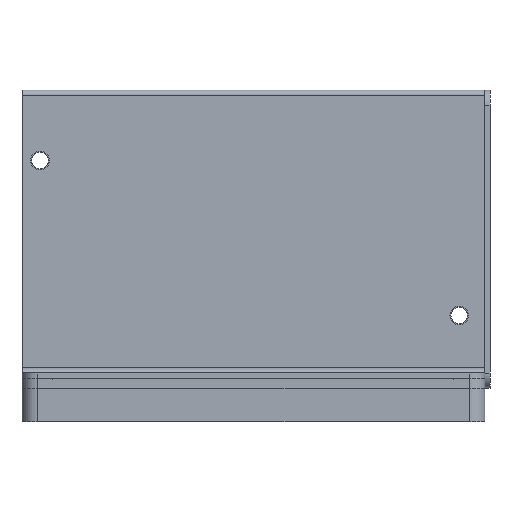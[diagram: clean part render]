
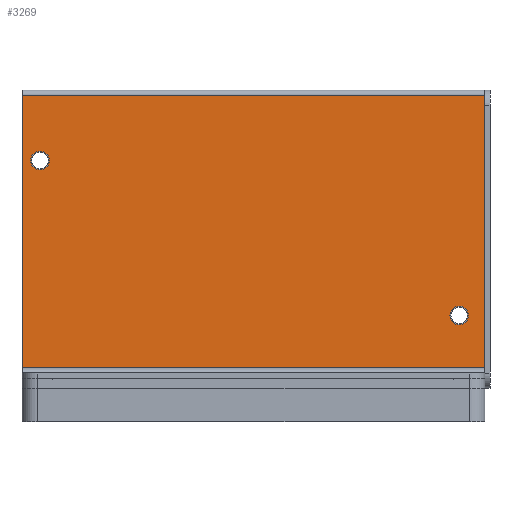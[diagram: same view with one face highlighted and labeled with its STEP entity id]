
A CAD part, left-side view. The second image highlights one B-rep face of the part: STEP entity #3269.
In plain terms, the highlighted planar face has unit normal (-1, 0, 0).
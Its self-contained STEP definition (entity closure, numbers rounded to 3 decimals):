
#180 = LINE ( 'NONE', #1345, #182 ) ;
#182 = VECTOR ( 'NONE', #1339, 1000. ) ;
#183 = CIRCLE ( 'NONE', #5026, 1.8 ) ;
#197 = VECTOR ( 'NONE', #1365, 1000. ) ;
#239 = LINE ( 'NONE', #1376, #197 ) ;
#259 = VECTOR ( 'NONE', #1450, 1000. ) ;
#263 = VECTOR ( 'NONE', #1451, 1000. ) ;
#265 = LINE ( 'NONE', #1471, #263 ) ;
#268 = CIRCLE ( 'NONE', #4982, 1.8 ) ;
#273 = LINE ( 'NONE', #1448, #259 ) ;
#332 = CIRCLE ( 'NONE', #4844, 1.8 ) ;
#396 = CIRCLE ( 'NONE', #4879, 1.8 ) ;
#1321 = DIRECTION ( 'NONE',  ( 0., 0., 1. ) ) ;
#1339 = DIRECTION ( 'NONE',  ( 0., 0., -1. ) ) ;
#1340 = CARTESIAN_POINT ( 'NONE',  ( -27., 5., 11.2 ) ) ;
#1345 = CARTESIAN_POINT ( 'NONE',  ( -27., 0., 0. ) ) ;
#1346 = DIRECTION ( 'NONE',  ( -1., 0., 0. ) ) ;
#1365 = DIRECTION ( 'NONE',  ( 0., -1., 0. ) ) ;
#1376 = CARTESIAN_POINT ( 'NONE',  ( -27., 0., 54. ) ) ;
#1448 = CARTESIAN_POINT ( 'NONE',  ( -27., 0., 1. ) ) ;
#1450 = DIRECTION ( 'NONE',  ( 0., 1., 0. ) ) ;
#1451 = DIRECTION ( 'NONE',  ( 0., 0., 1. ) ) ;
#1452 = CARTESIAN_POINT ( 'NONE',  ( -27., 86.5, 41.3 ) ) ;
#1461 = DIRECTION ( 'NONE',  ( 0., 0., 1. ) ) ;
#1465 = DIRECTION ( 'NONE',  ( -1., 0., 0. ) ) ;
#1471 = CARTESIAN_POINT ( 'NONE',  ( -27., 90., 0. ) ) ;
#1774 = CARTESIAN_POINT ( 'NONE',  ( -27., 86.5, 43.1 ) ) ;
#1819 = CARTESIAN_POINT ( 'NONE',  ( -27., 5., 9.4 ) ) ;
#1820 = CARTESIAN_POINT ( 'NONE',  ( -27., 86.5, 39.5 ) ) ;
#1896 = CARTESIAN_POINT ( 'NONE',  ( -27., 5., 13. ) ) ;
#2493 = VERTEX_POINT ( 'NONE', #1774 ) ;
#2529 = VERTEX_POINT ( 'NONE', #1819 ) ;
#2532 = VERTEX_POINT ( 'NONE', #1820 ) ;
#2572 = VERTEX_POINT ( 'NONE', #1896 ) ;
#2866 = ORIENTED_EDGE ( 'NONE', *, *, #7588, .F. ) ;
#2872 = ORIENTED_EDGE ( 'NONE', *, *, #7542, .F. ) ;
#2891 = ORIENTED_EDGE ( 'NONE', *, *, #7574, .F. ) ;
#2898 = ORIENTED_EDGE ( 'NONE', *, *, #7212, .F. ) ;
#2937 = ORIENTED_EDGE ( 'NONE', *, *, #7534, .F. ) ;
#2940 = ORIENTED_EDGE ( 'NONE', *, *, #7533, .F. ) ;
#2953 = ORIENTED_EDGE ( 'NONE', *, *, #7586, .F. ) ;
#2954 = ORIENTED_EDGE ( 'NONE', *, *, #7146, .F. ) ;
#3269 = ADVANCED_FACE ( 'NONE', ( #5765, #5751, #5767 ), #6155, .F. ) ;
#3944 = AXIS2_PLACEMENT_3D ( 'NONE', #6149, #6173, #6164 ) ;
#4183 = EDGE_LOOP ( 'NONE', ( #2940, #2872, #2953, #2866 ) ) ;
#4226 = EDGE_LOOP ( 'NONE', ( #2891, #2898 ) ) ;
#4250 = EDGE_LOOP ( 'NONE', ( #2937, #2954 ) ) ;
#4384 = VERTEX_POINT ( 'NONE', #7836 ) ;
#4388 = VERTEX_POINT ( 'NONE', #7852 ) ;
#4393 = VERTEX_POINT ( 'NONE', #7818 ) ;
#4413 = VERTEX_POINT ( 'NONE', #7860 ) ;
#4844 = AXIS2_PLACEMENT_3D ( 'NONE', #8157, #8128, #8129 ) ;
#4879 = AXIS2_PLACEMENT_3D ( 'NONE', #8297, #8307, #8333 ) ;
#4982 = AXIS2_PLACEMENT_3D ( 'NONE', #1452, #1465, #1461 ) ;
#5026 = AXIS2_PLACEMENT_3D ( 'NONE', #1340, #1346, #1321 ) ;
#5751 = FACE_BOUND ( 'NONE', #4250, .T. ) ;
#5765 = FACE_OUTER_BOUND ( 'NONE', #4183, .T. ) ;
#5767 = FACE_BOUND ( 'NONE', #4226, .T. ) ;
#6149 = CARTESIAN_POINT ( 'NONE',  ( -27., 0., 0. ) ) ;
#6155 = PLANE ( 'NONE',  #3944 ) ;
#6164 = DIRECTION ( 'NONE',  ( 0., 0., -1. ) ) ;
#6173 = DIRECTION ( 'NONE',  ( 1., 0., 0. ) ) ;
#7146 = EDGE_CURVE ( 'NONE', #2529, #2572, #332, .T. ) ;
#7212 = EDGE_CURVE ( 'NONE', #2532, #2493, #396, .T. ) ;
#7533 = EDGE_CURVE ( 'NONE', #4393, #4388, #180, .T. ) ;
#7534 = EDGE_CURVE ( 'NONE', #2572, #2529, #183, .T. ) ;
#7542 = EDGE_CURVE ( 'NONE', #4413, #4393, #239, .T. ) ;
#7574 = EDGE_CURVE ( 'NONE', #2493, #2532, #268, .T. ) ;
#7586 = EDGE_CURVE ( 'NONE', #4384, #4413, #265, .T. ) ;
#7588 = EDGE_CURVE ( 'NONE', #4388, #4384, #273, .T. ) ;
#7818 = CARTESIAN_POINT ( 'NONE',  ( -27., 0., 54. ) ) ;
#7836 = CARTESIAN_POINT ( 'NONE',  ( -27., 90., 1. ) ) ;
#7852 = CARTESIAN_POINT ( 'NONE',  ( -27., 0., 1. ) ) ;
#7860 = CARTESIAN_POINT ( 'NONE',  ( -27., 90., 54. ) ) ;
#8128 = DIRECTION ( 'NONE',  ( -1., 0., 0. ) ) ;
#8129 = DIRECTION ( 'NONE',  ( 0., 0., 1. ) ) ;
#8157 = CARTESIAN_POINT ( 'NONE',  ( -27., 5., 11.2 ) ) ;
#8297 = CARTESIAN_POINT ( 'NONE',  ( -27., 86.5, 41.3 ) ) ;
#8307 = DIRECTION ( 'NONE',  ( -1., 0., 0. ) ) ;
#8333 = DIRECTION ( 'NONE',  ( 0., 0., 1. ) ) ;
